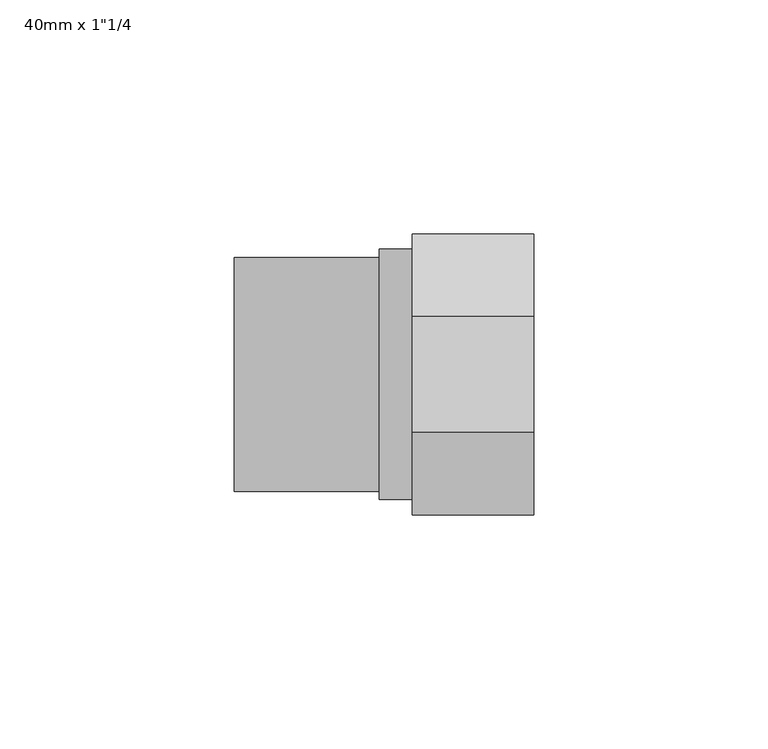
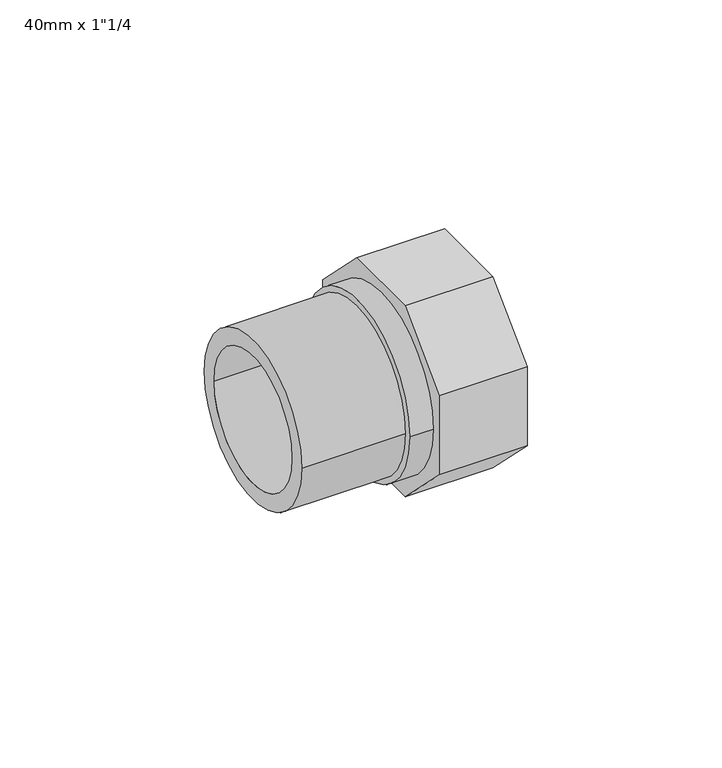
"""IFC4 building model written with IfcOpenShell, lengths in millimetres: pipe fitting geometry."""

from ifc_helpers import new_model, si_unit, point, frame, origin, origin_2d, place, context, project, spatial, polyline, circle_curve, trimmed, segment, composite_curve, outline, extrude, source, transform, mapped, element, save
from ifc_brep_helpers import plane_surface, revolved_surface, advanced_brep


def pipe_fitting_f3632e28(model_context):
    return source(origin(), model_context, "Body", "SolidModel", [
        extrude(outline(composite_curve([segment(trimmed(circle_curve(origin_2d(), 26.75), [point((-26.75, 0.0))], [point((26.75, 0.0))], False, "CARTESIAN"), True, "CONTINUOUS"), segment(trimmed(circle_curve(origin_2d(), 26.75), [point((26.75, 0.0))], [point((-26.75, 0.0))], False, "CARTESIAN"), True, "CONTINUOUS")], self_intersect=False), holes=[composite_curve([segment(trimmed(circle_curve(origin_2d(), 16.0), [point((-16.0, 0.0))], [point((16.0, 0.0))], True, "CARTESIAN"), True, "CONTINUOUS"), segment(trimmed(circle_curve(origin_2d(), 16.0), [point((16.0, 0.0))], [point((-16.0, 0.0))], True, "CARTESIAN"), True, "CONTINUOUS")], self_intersect=False)]), frame((15.5, 0.0, 0.0), z_axis=(1.0, 0.0, 0.0), x_axis=(0.0, 1.0, 0.0)), (0.0, 0.0, 1.0), 7.0),
        advanced_brep(
        [(22.5, 12.4264069, 30.0), (22.5, 30.0, 12.4264069), (22.5, 30.0, -12.4264069), (22.5, 12.4264069, -30.0), (22.5, -12.4264069, -30.0), (22.5, -30.0, -12.4264069), (22.5, -30.0, 12.4264069), (22.5, -12.4264069, 30.0), (22.5, -16.0, 0.0), (22.5, 16.0, 0.0), (48.5, 12.4264069, 30.0), (48.5, -12.4264069, 30.0), (48.5, -30.0, 12.4264069), (48.5, -30.0, -12.4264069), (48.5, -12.4264069, -30.0), (48.5, 12.4264069, -30.0), (48.5, 30.0, -12.4264069), (48.5, 30.0, 12.4264069), (48.5, 21.0, 0.0), (48.5, -21.0, 0.0), (48.3, 21.0, 0.0), (48.3, -21.0, 0.0), (48.3, 16.0, 0.0), (48.3, -16.0, 0.0)],
        [
            (0, 1),
            (1, 2),
            (2, 3),
            (3, 4),
            (4, 5),
            (5, 6),
            (6, 7),
            (7, 0),
            (8, 9, circle_curve(frame((22.5, 0.0, 0.0), z_axis=(1.0, 0.0, 0.0), x_axis=(0.0, -1.0, 0.0)), 16.0)),
            (9, 8, circle_curve(frame((22.5, 0.0, 0.0), z_axis=(1.0, 0.0, 0.0), x_axis=(0.0, -1.0, 0.0)), 16.0)),
            (10, 11),
            (11, 12),
            (12, 13),
            (13, 14),
            (14, 15),
            (15, 16),
            (16, 17),
            (17, 10),
            (18, 19, circle_curve(frame((48.5, 0.0, 0.0), z_axis=(-1.0, 0.0, 0.0), x_axis=(0.0, -1.0, 0.0)), 21.0)),
            (19, 18, circle_curve(frame((48.5, 0.0, 0.0), z_axis=(-1.0, 0.0, 0.0), x_axis=(0.0, -1.0, 0.0)), 21.0)),
            (0, 10),
            (17, 1),
            (16, 2),
            (15, 3),
            (14, 4),
            (13, 5),
            (12, 6),
            (11, 7),
            (20, 21, circle_curve(frame((48.3, 0.0, 0.0), z_axis=(1.0, 0.0, 0.0), x_axis=(0.0, -1.0, 0.0)), 21.0)),
            (21, 20, circle_curve(frame((48.3, 0.0, 0.0), z_axis=(1.0, 0.0, 0.0), x_axis=(0.0, -1.0, 0.0)), 21.0)),
            (22, 23, circle_curve(frame((48.3, 0.0, 0.0), z_axis=(-1.0, 0.0, 0.0), x_axis=(0.0, -1.0, 0.0)), 16.0)),
            (23, 22, circle_curve(frame((48.3, 0.0, 0.0), z_axis=(-1.0, 0.0, 0.0), x_axis=(0.0, -1.0, 0.0)), 16.0)),
            (21, 19),
            (18, 20),
            (22, 9),
            (8, 23),
        ],
        [
            plane_surface(frame((22.5, 0.0, 0.0), z_axis=(-1.0, 0.0, 0.0), x_axis=(0.0, 0.0, 1.0))),
            plane_surface(frame((48.5, 0.0, 0.0), z_axis=(1.0, 0.0, 0.0), x_axis=(0.0, 0.0, 1.0))),
            plane_surface(frame((22.5, 12.4264069, 30.0), z_axis=(0.0, 0.7071067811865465, 0.7071067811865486), x_axis=(1.0, 0.0, 0.0))),
            plane_surface(frame((22.5, 30.0, 12.4264069), z_axis=(0.0, 1.0, 0.0), x_axis=(1.0, 0.0, 0.0))),
            plane_surface(frame((22.5, 30.0, -12.4264069), z_axis=(0.0, 0.7071067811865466, -0.7071067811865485), x_axis=(1.0, 0.0, 0.0))),
            plane_surface(frame((22.5, 12.4264069, -30.0), z_axis=(0.0, 0.0, -1.0), x_axis=(1.0, 0.0, 0.0))),
            plane_surface(frame((22.5, -12.4264069, -30.0), z_axis=(0.0, -0.707106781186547, -0.7071067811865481), x_axis=(1.0, 0.0, 0.0))),
            plane_surface(frame((22.5, -30.0, -12.4264069), z_axis=(0.0, -1.0, 0.0), x_axis=(1.0, 0.0, 0.0))),
            plane_surface(frame((22.5, -30.0, 12.4264069), z_axis=(0.0, -0.7071067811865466, 0.7071067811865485), x_axis=(1.0, 0.0, 0.0))),
            plane_surface(frame((22.5, -12.4264069, 30.0), z_axis=(0.0, 0.0, 1.0), x_axis=(1.0, 0.0, 0.0))),
            plane_surface(frame((48.3, -21.0, 0.0), z_axis=(1.0, 0.0, 0.0), x_axis=(0.0, 0.0, 1.0))),
            revolved_surface(polyline([(48.3, -21.0, 0.0), (48.5, -21.0, 0.0)]), (48.5, 0.0, 0.0), (-1.0, 0.0, 0.0)),
            revolved_surface(polyline([(22.5, -16.0, 0.0), (48.3, -16.0, 0.0)]), (48.5, 0.0, 0.0), (-1.0, 0.0, 0.0)),
        ],
        [
            (0, [[1, 2, 3, 4, 5, 6, 7, 8], [9, 10]]),
            (1, [[11, 12, 13, 14, 15, 16, 17, 18], [19, 20]]),
            (2, [[-1, 21, -18, 22]]),
            (3, [[-2, -22, -17, 23]]),
            (4, [[-3, -23, -16, 24]]),
            (5, [[-4, -24, -15, 25]]),
            (6, [[-5, -25, -14, 26]]),
            (7, [[-6, -26, -13, 27]]),
            (8, [[-7, -27, -12, 28]]),
            (9, [[-8, -28, -11, -21]]),
            (10, [[29, 30], [31, 32]]),
            (11, [[-30, 33, -19, 34]]),
            (11, [[-29, -34, -20, -33]]),
            (12, [[35, -9, 36, -31]]),
            (12, [[-35, -32, -36, -10]]),
        ],
    ),
        extrude(outline(composite_curve([segment(trimmed(circle_curve(origin_2d(), 25.0), [point((-25.0, 0.0))], [point((25.0, 0.0))], False, "CARTESIAN"), True, "CONTINUOUS"), segment(trimmed(circle_curve(origin_2d(), 25.0), [point((25.0, 0.0))], [point((-25.0, 0.0))], False, "CARTESIAN"), True, "CONTINUOUS")], self_intersect=False), holes=[composite_curve([segment(trimmed(circle_curve(origin_2d(), 20.0), [point((-20.0, 0.0))], [point((20.0, 0.0))], True, "CARTESIAN"), True, "CONTINUOUS"), segment(trimmed(circle_curve(origin_2d(), 20.0), [point((20.0, 0.0))], [point((-20.0, 0.0))], True, "CARTESIAN"), True, "CONTINUOUS")], self_intersect=False)]), frame((-15.5, 0.0, 0.0), z_axis=(1.0, 0.0, 0.0), x_axis=(0.0, 1.0, 0.0)), (0.0, 0.0, 1.0), 31.0),
    ])


if __name__ == "__main__":
    model = new_model("IFC4")
    model_context = context("Model", 3, world=origin())
    ifc_project = project(units=[si_unit("LENGTHUNIT", "METRE", prefix="MILLI")], contexts=[model_context])
    site = spatial("IfcSite", under=ifc_project)
    building = spatial("IfcBuilding", under=site)
    placement = place(None, origin())
    pipe_fitting_shape = pipe_fitting_f3632e28(model_context)
    element("IfcPipeFitting", 1, ObjectType="PipeFitting_HTA_CPVC_ThreadedAdaptors : 40mm x 1\"1/4", at=placement, inside=building, context=model_context, shape_type="MappedRepresentation", body=[
        mapped(pipe_fitting_shape, transform((0.0, 0.0, 0.0), x_axis=(1.0, 0.0, 0.0), y_axis=(0.0, 1.0, 0.0), z_axis=(0.0, 0.0, 1.0))),
    ])
    save(model, "model.ifc")
